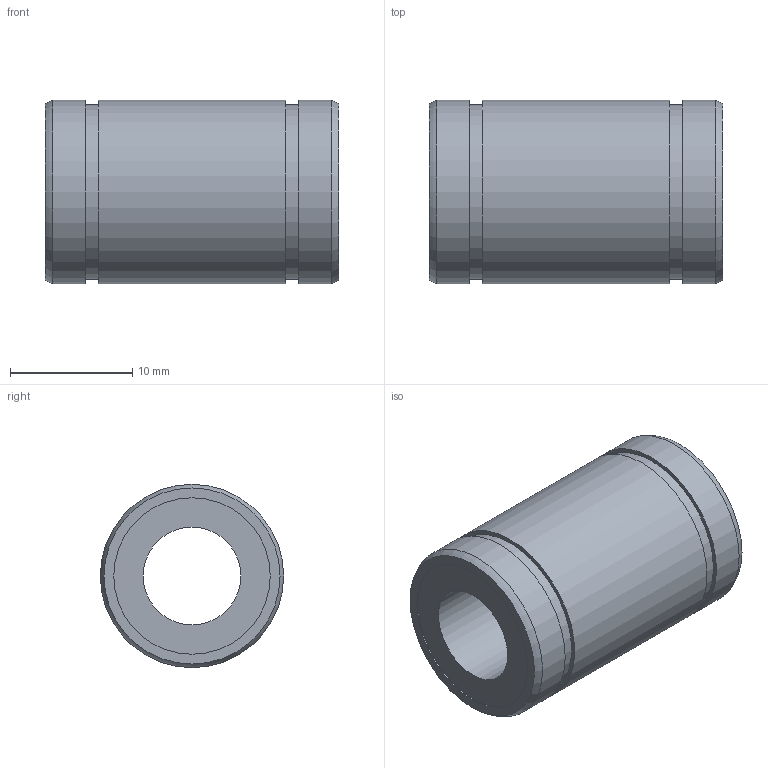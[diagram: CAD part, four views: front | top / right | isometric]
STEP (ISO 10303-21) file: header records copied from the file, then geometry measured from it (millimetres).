
FILE_DESCRIPTION((''),'2;1');
FILE_NAME('D:\製品 (図面)\カタログ用3D\リニアベアリング関連\STEP形式\L\L8B.stp','2010-06-02T17:31:31',('Tsuchiya'),(''),'Autodesk Inventor 10','Autodesk Inventor 10','');
FILE_SCHEMA(('AUTOMOTIVE_DESIGN { 1 0 10303 214 1 1 1 1 }'));
Length unit declared in the file: millimetre
Products named in the file (1): L8B
Bounding box: 24 x 15 x 15 mm (x, y, z)
Volume: 2975.6 mm3; surface area: 2027.2 mm2
Topology: 1 solids, 1 shells, 18 faces, 28 edges, 18 vertices
Faces by surface type: cylinder 8, plane 8, torus 2
Full cylindrical faces by diameter (mm): 8 x1, 12.8 x2, 14.3 x2, 15 x3
Entity records: 391 total; most frequent: DIRECTION 74, CARTESIAN_POINT 55, AXIS2_PLACEMENT_3D 37, ORIENTED_EDGE 36, EDGE_LOOP 36, VERTEX_POINT 18, CIRCLE 18, EDGE_CURVE 18
